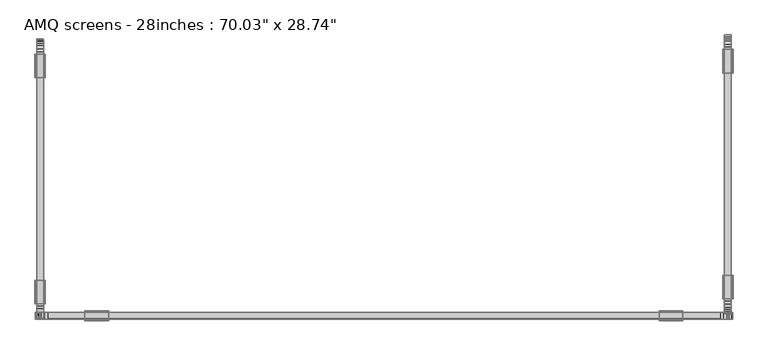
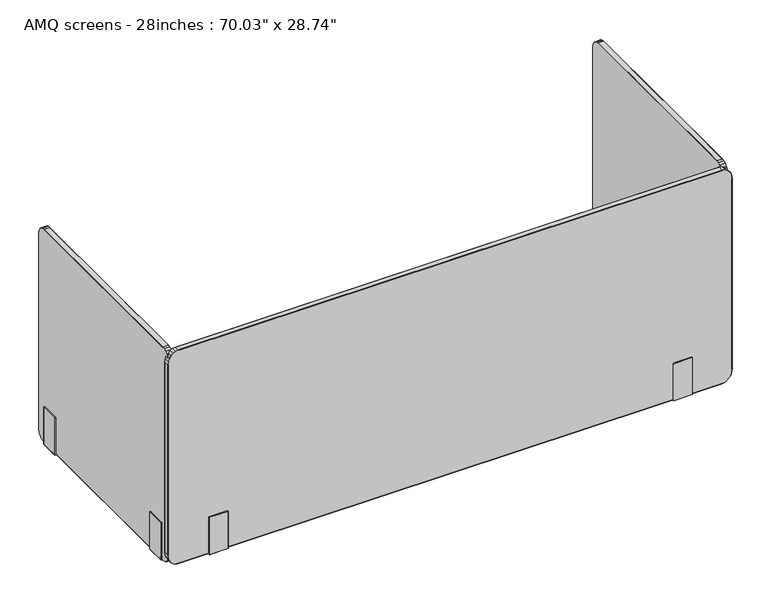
"""IFC4 building model written with IfcOpenShell, lengths in millimetres: furniture geometry."""

from ifc_helpers import new_model, si_unit, origin, place, context, project, spatial, triangles, source, transform, mapped, element, save


def furniture_cb9507ce(model_context):
    return source(origin(), model_context, "Body", "Tessellation", [
        triangles([(867.3004766, -314.4628913, 38.760016), (867.3004766, -314.4628913, 1.3049526), (867.3005493, 333.149505, 1.3044439), (867.3005493, 333.1495414, 38.7594347), (867.299968, -314.4625279, 673.4540239), (867.3005493, 333.1499047, 673.4532972), (884.2839603, -344.8169251, 683.966827), (868.3161123, -346.2567355, 673.5104158), (868.3161123, -344.8157261, 683.9604321), (884.2839603, -346.2567355, 673.5103432), (884.2839603, -341.5751535, 693.717322), (868.3161123, -341.5737001, 693.7046774), (884.2839603, -336.5061316, 701.5171366), (868.3161123, -336.5026797, 701.4945362), (868.3161123, -322.4581518, 710.7430269), (884.2839603, -322.4612403, 710.7901171), (868.3161123, -329.948792, 707.4603058), (884.2839603, -329.9522438, 707.493298), (884.2839603, -314.506784, 712.2133587), (868.3161123, -314.507111, 712.1517345), (867.299968, -340.7182654, 693.0616207), (867.299968, -343.84907, 683.5957741), (867.299968, -345.2408455, 673.4542419), (885.3001047, -322.1744119, 709.6081398), (885.3001047, -314.4625279, 673.4542419), (885.3001047, -329.4472601, 706.4331156), (885.3001047, -314.4605295, 710.9787683), (885.3001047, -345.2413178, 38.7598707), (884.2839603, -346.2570989, 38.7036968), (885.3001047, -345.2408455, 673.4542419), (867.3004766, -345.2413178, 38.7597935), (867.299968, -329.4441716, 706.3951818), (867.299968, -335.7956371, 700.6078171), (885.3001047, -343.8499057, 683.6030411), (885.3001047, -340.7198278, 693.0765181), (885.3001047, -335.7987256, 700.6339783), (867.299968, -314.4625279, 710.9091505), (867.299968, -322.1725224, 709.554364), (868.3161123, -346.2570989, 38.7036241), (885.3002501, 333.1499047, 673.4536606), (885.3002501, 333.1495414, 38.7592121), (885.3001047, -314.4628913, 38.7597935), (884.2839603, -344.8172885, 28.2472675), (868.3161123, -344.8160894, 28.2535897), (884.2839603, -341.5759892, 18.496634), (868.3161123, -341.5740635, 18.5094239), (884.2839603, -336.5064949, 10.696984), (868.3161123, -336.5030431, 10.7195106), (884.2839603, -322.4616036, 1.4240506), (868.3161123, -329.9491553, 4.7537816), (884.2839603, -329.9527162, 4.7206463), (868.3161123, -322.4585152, 1.471065), (884.2839603, -314.507111, 0.0006875), (868.3161123, -314.507111, 0.0623074), (884.2841057, 333.1936521, 0.0001061), (885.3001047, -314.4610019, 1.2353395), (885.3002501, 333.147543, 1.2347582), (867.3004766, -343.8494333, 28.6182954), (867.3004766, -340.7186288, 19.1524374), (885.3001047, -322.1747752, 2.6059479), (885.3001047, -329.4476234, 5.7809023), (867.3004766, -335.7961095, 11.6063875), (867.3004766, -329.444535, 5.8189064), (885.3001047, -340.7201912, 19.1373221), (885.3001047, -343.850269, 28.6108831), (885.3001047, -335.7992343, 11.5801548), (867.3004766, -322.1728858, 2.6595019), (868.3162577, 333.1944878, 712.1510078), (884.2841057, 333.1941244, 712.2127773), (867.3001133, 333.1499047, 710.9084238), (884.2841057, 363.5042293, 683.9661003), (868.3162577, 364.9441123, 673.5099072), (884.2841057, 364.9441123, 673.5096891), (868.3162577, 363.5031029, 683.9598507), (884.2841057, 360.2625667, 693.7167406), (868.3162577, 360.2610406, 693.7039507), (884.2841057, 355.1935083, 701.5164825), (868.3162577, 355.1900565, 701.4939548), (884.2841057, 348.6396569, 707.4928619), (884.2841057, 341.1486171, 710.7893904), (868.3162577, 348.6361324, 707.4597244), (868.3162577, 341.1455286, 710.7424456), (885.3002501, 333.1480153, 710.9780416), (867.3001133, 362.5364468, 683.5951927), (867.3001133, 363.9281859, 673.4536606), (867.3001133, 359.4056422, 693.0609667), (885.3002501, 340.8618613, 709.6074131), (885.3002501, 348.1346369, 706.4325342), (885.3002501, 363.9278589, 38.7592121), (884.2841057, 364.943749, 38.7031154), (885.3002501, 363.9281859, 673.4536606), (867.3005493, 363.9278589, 38.7592121), (867.3001133, 354.4831229, 700.6070904), (867.3001133, 348.1315484, 706.3944551), (885.3002501, 359.4072046, 693.076082), (885.3002501, 362.5372825, 683.6026051), (885.3002501, 354.4862114, 700.6332516), (867.3001133, 340.8598992, 709.553928), (868.3162577, 364.943749, 38.7030428), (884.2841057, 363.5038659, 28.2466134), (868.3162577, 363.5027395, 28.2529357), (884.2841057, 360.262167, 18.4960538), (868.3162577, 360.2606046, 18.5087699), (884.2841057, 355.193145, 10.69633), (868.3162577, 355.1896205, 10.7189292), (868.3162577, 348.6358054, 4.7532002), (868.3162577, 341.1451653, 1.4704836), (884.2841057, 341.1482537, 1.4233966), (884.2841057, 348.6392572, 4.7200653), (868.3162577, 333.1940881, 0.0617261), (867.3005493, 359.4052789, 19.1518561), (867.3005493, 362.5360834, 28.6177141), (885.3002501, 348.1342735, 5.7803936), (885.3002501, 340.8614253, 2.6054392), (867.3005493, 348.1311851, 5.8183971), (867.3005493, 354.4826506, 11.6058062), (885.3002501, 362.5369191, 28.6103017), (885.3002501, 359.4068413, 19.1367407), (885.3002501, 354.4858117, 11.5795746), (867.3005493, 340.8595359, 2.6589933), (-857.1782021, -343.0485374, 38.7595028), (-857.1782021, -343.0485374, 1.3045167), (857.2349573, -343.0488281, 1.3045167), (857.2349573, -343.0488281, 38.7595028), (-857.1782021, -343.0480651, 673.4536606), (857.2349573, -343.0483558, 673.4536606), (-887.5329626, -360.0319485, 683.9662457), (-888.9715376, -344.0641005, 673.5099798), (-887.5329626, -344.0641005, 683.959996), (-888.9715376, -360.0319485, 673.5099072), (-884.2897739, -360.0319485, 693.7170313), (-884.2897739, -344.0641005, 693.704096), (-879.2233681, -360.0319485, 701.5165552), (-879.2171185, -344.0641005, 701.4939548), (-865.1714642, -344.0639551, 710.7424456), (-865.1776411, -360.0318031, 710.7893904), (-872.6625767, -344.0641005, 707.4598698), (-872.6687536, -360.0319485, 707.4930073), (-857.221586, -360.0318031, 712.213068), (-857.221586, -344.0639551, 712.1512985), (-883.4337942, -343.0480651, 693.061112), (-886.5656525, -343.0480651, 683.5953381), (-887.9547392, -343.0480651, 673.4536606), (-864.8924841, -361.0478385, 709.6075584), (-857.1782021, -361.0479475, 673.4536606), (-872.1602091, -361.0479475, 706.4325342), (-857.1782021, -361.0478385, 710.9781143), (-887.9547392, -361.0479475, 673.4536606), (-887.9547392, -361.0483109, 38.7594347), (-888.9715376, -360.0324208, 38.7031881), (-887.9547392, -343.0484284, 38.7593575), (-872.1602091, -343.0480651, 706.3946005), (-878.5102575, -343.0480651, 700.6070904), (-886.5656525, -361.0479475, 683.6026051), (-883.4337942, -361.0479475, 693.076082), (-878.5164345, -361.0479475, 700.6333969), (-857.1782021, -343.0479561, 710.9087145), (-864.8863071, -343.0479561, 709.5540733), (-888.9715376, -344.0644275, 38.7031154), (857.2349573, -361.0482382, 673.4536606), (857.2349573, -361.0486015, 38.7593575), (-857.1782021, -361.0483109, 38.7594347), (-887.5329626, -360.0324208, 28.2468314), (-887.5329626, -344.0645728, 28.2530811), (-884.2897739, -360.0324208, 18.4961264), (-884.2897739, -344.0645728, 18.5089152), (-879.2233681, -360.0324208, 10.6964753), (-879.2171185, -344.0645728, 10.7190746), (-865.1776411, -360.0324208, 1.4235421), (-872.6625767, -344.0645728, 4.7532729), (-872.6687536, -360.0324208, 4.7201379), (-865.1714642, -344.0645728, 1.4705563), (-857.221586, -360.0324208, 0.0001788), (-857.221586, -344.0644275, 0.0618714), (857.2783413, -360.0327115, 0.0001788), (-857.1782021, -361.0484199, 1.2349034), (857.2349573, -361.0487105, 1.2349034), (-886.5656525, -343.0485374, 28.6177867), (-883.4337942, -343.0485374, 19.1520014), (-864.8924841, -361.0484199, 2.6055845), (-872.1602091, -361.0484199, 5.7805389), (-878.5102575, -343.0485374, 11.6059515), (-872.1602091, -343.0485374, 5.8183971), (-883.4337942, -361.0484199, 19.1368134), (-886.5656525, -361.0484199, 28.6104471), (-878.5164345, -361.0484199, 11.5797199), (-864.8863071, -343.0485374, 2.6589933), (857.2783413, -344.0642821, 712.1512985), (857.2783413, -360.0322392, 712.213068), (857.2349573, -343.0482468, 710.9087145), (887.5894272, -360.0322392, 683.9662457), (889.0285835, -344.0643911, 673.5099798), (889.0285835, -360.0322392, 673.5099072), (887.5894272, -344.0643911, 683.959996), (884.3464565, -360.0322392, 693.7170313), (884.3464565, -344.0643911, 693.704096), (879.2801233, -360.0322392, 701.5165552), (879.2738737, -344.0643911, 701.4939548), (872.7255089, -360.0322392, 707.4930073), (865.2343964, -360.0320938, 710.7893904), (872.7192593, -344.0643911, 707.4598698), (865.2281467, -344.0642821, 710.7424456), (857.2349573, -361.0481292, 710.9781143), (886.6224077, -343.0483558, 683.5953381), (888.0114218, -343.0483558, 673.4536606), (883.4905495, -343.0483558, 693.061112), (864.9492393, -361.0481292, 709.6075584), (872.2171824, -361.0482382, 706.4325342), (889.0285835, -360.0327115, 38.7031881), (888.0114218, -361.0486015, 38.7593575), (888.0114218, -361.0482382, 673.4536606), (888.0114218, -343.0487191, 38.7593575), (878.5667221, -343.0483558, 700.6070904), (872.2171824, -343.0483558, 706.3946005), (883.4905495, -361.0482382, 693.076082), (886.6224077, -361.0482382, 683.6026051), (878.5734077, -361.0482382, 700.6333969), (864.9430624, -343.0482468, 709.5540733), (889.0285835, -344.0647545, 38.7031154), (887.5894272, -360.0327115, 28.2468314), (887.5894272, -344.0648635, 28.2530811), (884.3464565, -360.0327115, 18.4961264), (884.3464565, -344.0648635, 18.5089152), (879.2801233, -360.0327115, 10.6964753), (879.2738737, -344.0648635, 10.7190746), (872.7192593, -344.0648635, 4.7532729), (865.2281467, -344.0648635, 1.4705563), (865.2343964, -360.0327115, 1.4235421), (872.7255089, -360.0327115, 4.7201379), (857.2783413, -344.0647545, 0.0618714), (883.4905495, -343.0488281, 19.1520014), (886.6224077, -343.0488281, 28.6177867), (872.2171824, -361.0487105, 5.7805389), (864.9492393, -361.0487105, 2.6055845), (872.2171824, -343.0488281, 5.8183971), (878.5667221, -343.0488281, 11.6059515), (886.6224077, -361.0487105, 28.6104471), (883.4905495, -361.0487105, 19.1368134), (878.5734077, -361.0487105, 11.5797199), (864.9430624, -343.0488281, 2.6589933), (-867.3004766, 321.5665638, 38.760016), (-867.3004766, 321.5665638, 1.3049526), (-867.3005493, -326.0457962, 1.3044439), (-867.3005493, -326.0458689, 38.7594347), (-867.299968, 321.5662368, 673.4540239), (-867.3005493, -326.0462322, 673.4532972), (-884.2839603, 351.9205976, 683.966827), (-868.3161123, 353.360408, 673.5104158), (-868.3161123, 351.9193986, 683.9604321), (-884.2839603, 353.360408, 673.5103432), (-884.2839603, 348.678826, 693.717322), (-868.3161123, 348.677409, 693.7046774), (-884.2839603, 343.6098041, 701.5171366), (-868.3161123, 343.6063522, 701.4945362), (-868.3161123, 329.5618243, 710.7430269), (-884.2839603, 329.5649128, 710.7901171), (-868.3161123, 337.0524645, 707.4603058), (-884.2839603, 337.0559163, 707.493298), (-884.2839603, 321.6104565, 712.2133587), (-868.3161123, 321.6108198, 712.1517345), (-867.299968, 347.8219379, 693.0616207), (-867.299968, 350.9527425, 683.5957741), (-867.299968, 352.344518, 673.4542419), (-885.3001047, 329.2781207, 709.6081398), (-885.3001047, 321.5662368, 673.4542419), (-885.3001047, 336.5509689, 706.4331156), (-885.3001047, 321.564202, 710.9787683), (-885.3001047, 352.3449903, 38.7598707), (-884.2839603, 353.3607714, 38.7036968), (-885.3001047, 352.344518, 673.4542419), (-867.3004766, 352.3449903, 38.7597935), (-867.299968, 336.5478441, 706.3951818), (-867.299968, 342.8993096, 700.6078171), (-885.3001047, 350.9535782, 683.6030411), (-885.3001047, 347.8235003, 693.0765181), (-885.3001047, 342.9024344, 700.6339783), (-867.299968, 321.5662368, 710.9091505), (-867.299968, 329.276195, 709.554364), (-868.3161123, 353.3607714, 38.7036241), (-885.3002501, -326.0462322, 673.4536606), (-885.3002501, -326.0458689, 38.7592121), (-885.3001047, 321.5665638, 38.7597935), (-884.2839603, 351.920961, 28.2472675), (-868.3161123, 351.9197619, 28.2535897), (-884.2839603, 348.6796618, 18.496634), (-868.3161123, 348.6777723, 18.5094239), (-884.2839603, 343.6101674, 10.696984), (-868.3161123, 343.6067156, 10.7195106), (-884.2839603, 329.5652761, 1.4240506), (-868.3161123, 337.0528278, 4.7537816), (-884.2839603, 337.0563887, 4.7206463), (-868.3161123, 329.5621877, 1.471065), (-884.2839603, 321.6108198, 0.0006875), (-868.3161123, 321.6108198, 0.0623074), (-884.2841057, -326.0899796, 0.0001061), (-885.3001047, 321.5646744, 1.2353395), (-885.3002501, -326.0438341, 1.2347582), (-867.3004766, 350.9531058, 28.6182954), (-867.3004766, 347.8223013, 19.1524374), (-885.3001047, 329.2784841, 2.6059479), (-885.3001047, 336.5512959, 5.7809023), (-867.3004766, 342.899782, 11.6063875), (-867.3004766, 336.5482075, 5.8189064), (-885.3001047, 347.8238637, 19.1373221), (-885.3001047, 350.9539415, 28.6108831), (-885.3001047, 342.9029068, 11.5801548), (-867.3004766, 329.2765583, 2.6595019), (-868.3162577, -326.0908153, 712.1510078), (-884.2841057, -326.0904519, 712.2127773), (-867.3001133, -326.0462322, 710.9084238), (-884.2841057, -356.4005568, 683.9661003), (-868.3162577, -357.8404035, 673.5099072), (-884.2841057, -357.8404035, 673.5096891), (-868.3162577, -356.3994304, 683.9598507), (-884.2841057, -353.1588942, 693.7167406), (-868.3162577, -353.1573318, 693.7039507), (-884.2841057, -348.0897995, 701.5164825), (-868.3162577, -348.0863477, 701.4939548), (-884.2841057, -341.5359844, 707.4928619), (-884.2841057, -334.0449446, 710.7893904), (-868.3162577, -341.5324599, 707.4597244), (-868.3162577, -334.0418198, 710.7424456), (-885.3002501, -326.0443065, 710.9780416), (-867.3001133, -355.4327379, 683.5951927), (-867.3001133, -356.8245134, 673.4536606), (-867.3001133, -352.3019697, 693.0609667), (-885.3002501, -333.7581888, 709.6074131), (-885.3002501, -341.0309644, 706.4325342), (-885.3002501, -356.8241501, 38.7592121), (-884.2841057, -357.8400764, 38.7031154), (-885.3002501, -356.8245134, 673.4536606), (-867.3005493, -356.8241501, 38.7592121), (-867.3001133, -347.3794504, 700.6070904), (-867.3001133, -341.0278396, 706.3944551), (-885.3002501, -352.3034958, 693.076082), (-885.3002501, -355.4335736, 683.6026051), (-885.3002501, -347.3825389, 700.6332516), (-867.3001133, -333.7561904, 709.553928), (-868.3162577, -357.8400764, 38.7030428), (-884.2841057, -356.4001934, 28.2466134), (-868.3162577, -356.399067, 28.2529357), (-884.2841057, -353.1584581, 18.4960538), (-868.3162577, -353.1569321, 18.5087699), (-884.2841057, -348.0894725, 10.69633), (-868.3162577, -348.085948, 10.7189292), (-868.3162577, -341.5320966, 4.7532002), (-868.3162577, -334.0414927, 1.4704836), (-884.2841057, -334.0445812, 1.4233966), (-884.2841057, -341.5355847, 4.7200653), (-868.3162577, -326.0903792, 0.0617261), (-867.3005493, -352.3016064, 19.1518561), (-867.3005493, -355.4323746, 28.6177141), (-885.3002501, -341.030601, 5.7803936), (-885.3002501, -333.7577528, 2.6054392), (-867.3005493, -341.0275126, 5.8183971), (-867.3005493, -347.3789781, 11.6058062), (-885.3002501, -355.4332103, 28.6103017), (-885.3002501, -352.3031324, 19.1367407), (-885.3002501, -347.3821392, 11.5795746), (-867.3005493, -333.7558634, 2.6589933)], [[1, 3, 2], [1, 4, 3], [5, 4, 1], [5, 6, 4], [7, 9, 8], [10, 7, 8], [11, 12, 9], [7, 11, 9], [13, 14, 12], [11, 13, 12], [15, 17, 16], [16, 17, 18], [19, 20, 15], [19, 15, 16], [17, 14, 18], [18, 14, 13], [21, 5, 22], [22, 5, 23], [24, 26, 25], [27, 24, 25], [28, 30, 29], [30, 10, 29], [23, 5, 31], [5, 1, 31], [32, 5, 33], [33, 5, 21], [34, 30, 25], [35, 34, 25], [36, 35, 25], [26, 36, 25], [37, 5, 38], [38, 5, 32], [39, 8, 23], [39, 23, 31], [25, 41, 40], [25, 42, 41], [43, 29, 39], [43, 39, 44], [45, 43, 44], [45, 44, 46], [45, 46, 47], [47, 46, 48], [49, 51, 50], [52, 49, 50], [53, 49, 52], [54, 53, 52], [55, 57, 56], [55, 56, 53], [51, 47, 48], [50, 51, 48], [1, 58, 31], [1, 59, 58], [42, 60, 56], [42, 61, 60], [1, 62, 59], [1, 63, 62], [42, 65, 64], [28, 65, 42], [42, 66, 61], [42, 64, 66], [1, 67, 63], [1, 2, 67], [29, 10, 8], [29, 8, 39], [25, 30, 42], [30, 28, 42], [68, 20, 19], [68, 19, 69], [37, 6, 5], [37, 70, 6], [42, 56, 41], [41, 56, 57], [71, 73, 72], [71, 72, 74], [75, 71, 74], [75, 74, 76], [75, 76, 77], [77, 76, 78], [79, 81, 80], [81, 82, 80], [80, 82, 69], [82, 68, 69], [83, 19, 27], [69, 19, 83], [77, 78, 79], [78, 81, 79], [84, 85, 6], [86, 84, 6], [83, 40, 87], [87, 40, 88], [89, 90, 73], [89, 73, 91], [6, 92, 4], [85, 92, 6], [93, 86, 6], [94, 93, 6], [95, 40, 96], [96, 40, 91], [88, 40, 97], [97, 40, 95], [98, 94, 6], [70, 98, 6], [99, 92, 85], [99, 85, 72], [100, 101, 99], [90, 100, 99], [102, 103, 101], [100, 102, 101], [104, 105, 103], [102, 104, 103], [106, 108, 107], [109, 108, 106], [107, 55, 110], [108, 55, 107], [105, 109, 106], [104, 109, 105], [4, 112, 111], [4, 92, 112], [41, 114, 113], [41, 57, 114], [4, 116, 115], [4, 111, 116], [41, 117, 89], [41, 118, 117], [41, 119, 118], [41, 113, 119], [4, 120, 3], [4, 115, 120], [90, 99, 72], [90, 72, 73], [91, 41, 89], [91, 40, 41], [68, 70, 37], [20, 68, 37], [27, 25, 83], [83, 25, 40], [55, 53, 54], [110, 55, 54], [2, 110, 54], [2, 3, 110], [121, 123, 122], [121, 124, 123], [125, 124, 121], [125, 126, 124], [127, 129, 128], [130, 127, 128], [131, 132, 129], [127, 131, 129], [133, 134, 132], [131, 133, 132], [135, 137, 136], [136, 137, 138], [139, 140, 135], [139, 135, 136], [137, 134, 138], [138, 134, 133], [141, 125, 142], [142, 125, 143], [144, 146, 145], [147, 144, 145], [148, 150, 149], [130, 150, 148], [143, 125, 151], [125, 121, 151], [152, 125, 153], [153, 125, 141], [154, 148, 145], [155, 154, 145], [156, 155, 145], [146, 156, 145], [157, 125, 158], [158, 125, 152], [128, 143, 159], [143, 151, 159], [160, 145, 161], [145, 162, 161], [163, 150, 159], [163, 159, 164], [165, 163, 164], [165, 164, 166], [165, 166, 167], [167, 166, 168], [169, 171, 170], [172, 169, 170], [173, 169, 172], [174, 173, 172], [175, 177, 176], [175, 176, 173], [171, 167, 168], [170, 171, 168], [121, 178, 151], [121, 179, 178], [162, 180, 176], [162, 181, 180], [121, 182, 179], [121, 183, 182], [162, 185, 184], [162, 149, 185], [162, 186, 181], [162, 184, 186], [121, 187, 183], [121, 122, 187], [150, 130, 128], [150, 128, 159], [145, 148, 162], [148, 149, 162], [188, 140, 139], [189, 188, 139], [157, 126, 125], [157, 190, 126], [162, 176, 161], [161, 176, 177], [191, 193, 192], [191, 192, 194], [191, 194, 195], [195, 194, 196], [197, 195, 196], [197, 196, 198], [199, 201, 200], [201, 202, 200], [200, 202, 189], [202, 188, 189], [203, 139, 147], [189, 139, 203], [197, 198, 199], [198, 201, 199], [204, 205, 126], [206, 204, 126], [203, 160, 207], [207, 160, 208], [193, 210, 209], [193, 211, 210], [126, 212, 124], [205, 212, 126], [213, 206, 126], [214, 213, 126], [215, 160, 216], [216, 160, 211], [208, 160, 217], [217, 160, 215], [218, 214, 126], [190, 218, 126], [205, 219, 212], [192, 219, 205], [220, 221, 219], [220, 219, 209], [222, 223, 221], [220, 222, 221], [224, 225, 223], [222, 224, 223], [226, 228, 227], [229, 228, 226], [227, 175, 230], [228, 175, 227], [225, 229, 226], [224, 229, 225], [124, 232, 231], [124, 212, 232], [161, 234, 233], [161, 177, 234], [124, 236, 235], [124, 231, 236], [210, 161, 237], [161, 238, 237], [161, 239, 238], [161, 233, 239], [124, 240, 123], [124, 235, 240], [209, 219, 192], [209, 192, 193], [211, 161, 210], [211, 160, 161], [188, 190, 157], [140, 188, 157], [203, 147, 145], [203, 145, 160], [175, 173, 174], [230, 175, 174], [122, 230, 174], [122, 123, 230], [241, 243, 242], [241, 244, 243], [245, 244, 241], [245, 246, 244], [247, 249, 248], [250, 247, 248], [251, 252, 249], [247, 251, 249], [253, 254, 252], [251, 253, 252], [255, 257, 256], [256, 257, 258], [259, 260, 255], [259, 255, 256], [257, 254, 258], [258, 254, 253], [261, 245, 262], [262, 245, 263], [264, 266, 265], [267, 264, 265], [268, 270, 269], [270, 250, 269], [263, 245, 271], [245, 241, 271], [272, 245, 273], [273, 245, 261], [274, 270, 265], [275, 274, 265], [276, 275, 265], [266, 276, 265], [277, 245, 278], [278, 245, 272], [279, 248, 263], [279, 263, 271], [265, 281, 280], [265, 282, 281], [283, 269, 279], [283, 279, 284], [285, 283, 284], [285, 284, 286], [285, 286, 287], [287, 286, 288], [289, 291, 290], [292, 289, 290], [293, 289, 292], [294, 293, 292], [295, 297, 296], [295, 296, 293], [291, 287, 288], [290, 291, 288], [241, 298, 271], [241, 299, 298], [282, 300, 296], [282, 301, 300], [241, 302, 299], [241, 303, 302], [282, 305, 304], [268, 305, 282], [282, 306, 301], [282, 304, 306], [241, 307, 303], [241, 242, 307], [269, 250, 248], [269, 248, 279], [265, 270, 282], [270, 268, 282], [308, 260, 259], [308, 259, 309], [277, 246, 245], [277, 310, 246], [282, 296, 281], [281, 296, 297], [311, 313, 312], [311, 312, 314], [315, 311, 314], [315, 314, 316], [315, 316, 317], [317, 316, 318], [319, 321, 320], [321, 322, 320], [320, 322, 309], [322, 308, 309], [323, 259, 267], [309, 259, 323], [317, 318, 319], [318, 321, 319], [324, 325, 246], [326, 324, 246], [323, 280, 327], [327, 280, 328], [329, 330, 313], [329, 313, 331], [246, 332, 244], [325, 332, 246], [333, 326, 246], [334, 333, 246], [335, 280, 336], [336, 280, 331], [328, 280, 337], [337, 280, 335], [338, 334, 246], [310, 338, 246], [339, 332, 325], [339, 325, 312], [340, 341, 339], [330, 340, 339], [342, 343, 341], [340, 342, 341], [344, 345, 343], [342, 344, 343], [346, 348, 347], [349, 348, 346], [347, 295, 350], [348, 295, 347], [345, 349, 346], [344, 349, 345], [244, 352, 351], [244, 332, 352], [281, 354, 353], [281, 297, 354], [244, 356, 355], [244, 351, 356], [281, 357, 329], [281, 358, 357], [281, 359, 358], [281, 353, 359], [244, 360, 243], [244, 355, 360], [330, 339, 312], [330, 312, 313], [331, 281, 329], [331, 280, 281], [308, 310, 277], [260, 308, 277], [267, 265, 323], [323, 265, 280], [295, 293, 294], [350, 295, 294], [242, 350, 294], [242, 243, 350]], closed=False),
        triangles([(889.4058134, 327.999347, 123.6855554), (889.4058134, 267.9994665, 123.6855554), (885.4056215, 327.999347, 123.6855554), (885.4056215, 267.9994665, 123.6855554), (885.4056215, 327.999347, 24.3661544), (885.4056215, 267.9994665, 24.3661544), (867.4054848, 327.999347, 24.3661544), (867.4054848, 267.9994665, 24.3661544), (867.4062841, -248.4793643, 24.3660818), (863.4060923, -248.4793643, 24.3660818), (867.4062841, -248.4793643, 0.0002515), (863.4060923, -248.4793643, 0.0002515), (867.4062841, -248.4793643, 123.6854827), (863.4060923, -248.4793643, 123.6854827), (889.4061768, -248.4793643, 24.3660818), (885.4064209, -248.4793643, 0.0002515), (889.4061768, -248.4793643, 0.0002515), (885.4064209, -248.4793643, 24.3660818), (885.4064209, -248.4793643, 123.6854827), (889.4061768, -248.4793643, 123.6854827), (867.4062841, -308.4791722, 0.0002515), (863.4060923, -308.4791722, 24.3660818), (867.4062841, -308.4791722, 24.3660818), (863.4060923, -308.4791722, 0.0002515), (867.4062841, -308.4791722, 123.6855554), (863.4060923, -308.4791722, 123.6855554), (889.4061768, -308.4791722, 0.0002515), (885.4064209, -308.4791722, 0.0002515), (889.4061768, -308.4791722, 24.3660818), (885.4064209, -308.4791722, 24.3660818), (885.4064209, -308.4791722, 123.6855554), (889.4061768, -308.4791722, 123.6855554), (863.4052929, 327.999347, 24.3661544), (867.4054848, 327.999347, 0.0002515), (863.4052929, 327.999347, 0.0002515), (867.4054848, 327.999347, 123.6855554), (863.4052929, 327.999347, 123.6855554), (889.4058134, 327.999347, 24.3661544), (885.4056215, 327.999347, 0.0002515), (889.4058134, 327.999347, 0.0002515), (867.4054848, 267.9994665, 0.0002515), (863.4052929, 267.9994665, 24.3661544), (863.4052929, 267.9994665, 0.0002515), (867.4054848, 267.9994665, 123.6855554), (863.4052929, 267.9994665, 123.6855554), (889.4058134, 267.9994665, 0.0002515), (885.4056215, 267.9994665, 0.0002515), (889.4058134, 267.9994665, 24.3661544), (-701.7910297, -338.9435918, 123.6857007), (-761.7907831, -338.9435918, 123.6857007), (-701.7910297, -342.9437837, 123.6856281), (-761.7907831, -342.9437837, 123.6856281), (-701.7910297, -342.942839, 24.3662271), (-761.7907831, -342.942839, 24.3662271), (-701.7910297, -360.9428304, 24.3659364), (-761.7907831, -360.9428304, 24.3659364), (701.3101725, -364.9436399, 24.3660818), (701.3101725, -360.9434481, 0.0002515), (701.3101725, -360.9434481, 24.3660818), (701.3101725, -364.9436399, 0.0002515), (701.3101725, -360.9434481, 123.6854827), (701.3101725, -364.9436399, 123.6854827), (701.3101725, -342.9434203, 0.0002515), (701.3101725, -338.9432284, 0.0002515), (701.3101725, -338.9432284, 24.3660818), (701.3101725, -342.9434203, 24.3660818), (701.3101725, -342.9434203, 123.6854827), (701.3101725, -338.9432284, 123.6854827), (761.3100712, -364.9436399, 24.3660818), (761.3100712, -360.9434481, 24.3660818), (761.3100712, -360.9434481, 0.0002515), (761.3100712, -364.9436399, 0.0002515), (761.3100712, -364.9436399, 123.6855554), (761.3100712, -360.9434481, 123.6855554), (761.3100712, -342.9434203, 0.0002515), (761.3100712, -338.9432284, 24.3660818), (761.3100712, -338.9432284, 0.0002515), (761.3100712, -342.9434203, 24.3660818), (761.3100712, -342.9434203, 123.6855554), (761.3100712, -338.9432284, 123.6855554), (-701.7910297, -364.9430223, 24.3659364), (-701.7910297, -360.9426124, 0.0001061), (-701.7910297, -364.9428042, 3.35e-05), (-701.7910297, -364.943967, 123.6853374), (-701.7910297, -360.9438114, 123.6853374), (-701.7910297, -342.9425846, 0.0003241), (-701.7910297, -338.9423927, 0.0003968), (-701.7910297, -338.9426471, 24.3662271), (-761.7907831, -364.9430223, 24.3659364), (-761.7907831, -360.9426124, 0.0001061), (-761.7907831, -364.9428042, 3.35e-05), (-761.7907831, -364.943967, 123.6853374), (-761.7907831, -360.9438114, 123.6853374), (-761.7907831, -342.9425846, 0.0003241), (-761.7907831, -338.9426471, 24.3662271), (-761.7907831, -338.9423927, 0.0003968), (-889.4058134, -320.8956745, 123.6855554), (-889.4058134, -260.895794, 123.6855554), (-885.4056215, -320.8956745, 123.6855554), (-885.4056215, -260.895794, 123.6855554), (-885.4056215, -320.8956745, 24.3661544), (-885.4056215, -260.895794, 24.3661544), (-867.4054848, -320.8956745, 24.3661544), (-867.4054848, -260.895794, 24.3661544), (-867.4062841, 255.583055, 24.3660818), (-863.4060923, 255.583055, 24.3660818), (-867.4062841, 255.583055, 0.0002515), (-863.4060923, 255.583055, 0.0002515), (-867.4062841, 255.583055, 123.6854827), (-863.4060923, 255.583055, 123.6854827), (-889.4061768, 255.583055, 24.3660818), (-885.4064209, 255.583055, 0.0002515), (-889.4061768, 255.583055, 0.0002515), (-885.4064209, 255.583055, 24.3660818), (-885.4064209, 255.583055, 123.6854827), (-889.4061768, 255.583055, 123.6854827), (-867.4062841, 315.5828811, 0.0002515), (-863.4060923, 315.5828811, 24.3660818), (-867.4062841, 315.5828811, 24.3660818), (-863.4060923, 315.5828811, 0.0002515), (-867.4062841, 315.5828811, 123.6855554), (-863.4060923, 315.5828811, 123.6855554), (-889.4061768, 315.5828811, 0.0002515), (-885.4064209, 315.5828811, 0.0002515), (-889.4061768, 315.5828811, 24.3660818), (-885.4064209, 315.5828811, 24.3660818), (-885.4064209, 315.5828811, 123.6855554), (-889.4061768, 315.5828811, 123.6855554), (-863.4052929, -320.8956745, 24.3661544), (-867.4054848, -320.8956745, 0.0002515), (-863.4052929, -320.8956745, 0.0002515), (-867.4054848, -320.8956745, 123.6855554), (-863.4052929, -320.8956745, 123.6855554), (-889.4058134, -320.8956745, 24.3661544), (-885.4056215, -320.8956745, 0.0002515), (-889.4058134, -320.8956745, 0.0002515), (-867.4054848, -260.895794, 0.0002515), (-863.4052929, -260.895794, 24.3661544), (-863.4052929, -260.895794, 0.0002515), (-867.4054848, -260.895794, 123.6855554), (-863.4052929, -260.895794, 123.6855554), (-889.4058134, -260.895794, 0.0002515), (-885.4056215, -260.895794, 0.0002515), (-889.4058134, -260.895794, 24.3661544)], [[1, 3, 2], [3, 4, 2], [5, 7, 6], [7, 8, 6], [9, 11, 10], [11, 12, 10], [13, 10, 14], [13, 9, 10], [15, 17, 16], [15, 16, 18], [15, 18, 19], [20, 15, 19], [16, 11, 9], [18, 16, 9], [21, 23, 22], [21, 22, 24], [25, 26, 22], [23, 25, 22], [27, 29, 28], [29, 30, 28], [29, 31, 30], [29, 32, 31], [28, 23, 21], [28, 30, 23], [22, 10, 12], [22, 12, 24], [12, 11, 24], [11, 21, 24], [13, 14, 25], [14, 26, 25], [26, 14, 10], [26, 10, 22], [13, 23, 9], [25, 23, 13], [16, 17, 28], [17, 27, 28], [15, 27, 17], [29, 27, 15], [31, 19, 18], [31, 18, 30], [20, 29, 15], [32, 29, 20], [20, 19, 32], [19, 31, 32], [18, 9, 30], [9, 23, 30], [7, 34, 33], [34, 35, 33], [36, 33, 37], [36, 7, 33], [38, 40, 39], [38, 39, 5], [38, 5, 3], [1, 38, 3], [39, 34, 7], [5, 39, 7], [41, 8, 42], [41, 42, 43], [44, 45, 42], [8, 44, 42], [46, 48, 47], [48, 6, 47], [48, 4, 6], [48, 2, 4], [47, 8, 41], [47, 6, 8], [42, 33, 35], [42, 35, 43], [35, 34, 43], [34, 41, 43], [36, 37, 44], [37, 45, 44], [45, 37, 33], [45, 33, 42], [36, 8, 7], [44, 8, 36], [39, 40, 47], [40, 46, 47], [38, 46, 40], [48, 46, 38], [4, 3, 5], [4, 5, 6], [1, 48, 38], [2, 48, 1], [49, 51, 50], [51, 52, 50], [53, 55, 54], [55, 56, 54], [57, 59, 58], [60, 57, 58], [57, 62, 61], [57, 61, 59], [63, 65, 64], [63, 66, 65], [66, 67, 65], [67, 68, 65], [58, 59, 63], [59, 66, 63], [69, 71, 70], [69, 72, 71], [73, 69, 74], [69, 70, 74], [75, 77, 76], [78, 75, 76], [79, 78, 76], [79, 76, 80], [70, 71, 75], [70, 75, 78], [69, 57, 60], [69, 60, 72], [72, 60, 58], [71, 72, 58], [74, 61, 62], [73, 74, 62], [73, 62, 57], [73, 57, 69], [61, 70, 59], [74, 70, 61], [75, 63, 64], [77, 75, 64], [65, 77, 64], [76, 77, 65], [79, 67, 66], [79, 66, 78], [68, 76, 65], [80, 76, 68], [80, 68, 67], [79, 80, 67], [78, 66, 59], [70, 78, 59], [81, 55, 82], [81, 82, 83], [84, 85, 81], [81, 85, 55], [86, 88, 87], [53, 88, 86], [51, 88, 53], [51, 49, 88], [55, 86, 82], [55, 53, 86], [89, 90, 56], [89, 91, 90], [92, 89, 93], [89, 56, 93], [94, 96, 95], [54, 94, 95], [52, 54, 95], [52, 95, 50], [56, 90, 94], [56, 94, 54], [89, 81, 83], [89, 83, 91], [83, 82, 91], [82, 90, 91], [85, 84, 93], [84, 92, 93], [92, 84, 81], [92, 81, 89], [85, 56, 55], [85, 93, 56], [86, 87, 94], [87, 96, 94], [88, 96, 87], [95, 96, 88], [52, 51, 53], [52, 53, 54], [49, 95, 88], [50, 95, 49], [97, 99, 98], [99, 100, 98], [101, 103, 102], [103, 104, 102], [105, 107, 106], [107, 108, 106], [109, 106, 110], [109, 105, 106], [111, 113, 112], [111, 112, 114], [111, 114, 115], [116, 111, 115], [112, 107, 105], [114, 112, 105], [117, 119, 118], [117, 118, 120], [121, 122, 118], [119, 121, 118], [123, 125, 124], [125, 126, 124], [125, 127, 126], [125, 128, 127], [124, 119, 117], [124, 126, 119], [118, 106, 108], [118, 108, 120], [108, 107, 120], [107, 117, 120], [109, 110, 121], [110, 122, 121], [122, 110, 106], [122, 106, 118], [109, 119, 105], [121, 119, 109], [112, 113, 124], [113, 123, 124], [111, 123, 113], [125, 123, 111], [127, 115, 114], [127, 114, 126], [116, 125, 111], [128, 125, 116], [116, 115, 128], [115, 127, 128], [114, 105, 126], [105, 119, 126], [103, 130, 129], [130, 131, 129], [132, 129, 133], [132, 103, 129], [134, 136, 135], [134, 135, 101], [134, 101, 99], [97, 134, 99], [135, 130, 103], [101, 135, 103], [137, 104, 138], [137, 138, 139], [140, 141, 138], [104, 140, 138], [142, 144, 143], [144, 102, 143], [144, 100, 102], [144, 98, 100], [143, 104, 137], [143, 102, 104], [138, 129, 131], [138, 131, 139], [131, 130, 139], [130, 137, 139], [132, 133, 140], [133, 141, 140], [141, 133, 129], [141, 129, 138], [132, 104, 103], [140, 104, 132], [135, 136, 143], [136, 142, 143], [134, 142, 136], [144, 142, 134], [100, 99, 101], [100, 101, 102], [97, 144, 134], [98, 144, 97]], closed=False),
    ])


if __name__ == "__main__":
    model = new_model("IFC4")
    model_context = context("Model", 3, world=origin())
    ifc_project = project(units=[si_unit("LENGTHUNIT", "METRE", prefix="MILLI")], contexts=[model_context])
    site = spatial("IfcSite", under=ifc_project)
    building = spatial("IfcBuilding", under=site)
    placement = place(None, origin())
    furniture_shape = furniture_cb9507ce(model_context)
    element("IfcFurniture", 1, ObjectType="AMQ screens - 28inches : 70.03\" x 28.74\"", at=placement, inside=building, context=model_context, shape_type="MappedRepresentation", body=[
        mapped(furniture_shape, transform((0.0, 0.0, 0.0), x_axis=(1.0, 0.0, 0.0), y_axis=(0.0, 1.0, 0.0), z_axis=(0.0, 0.0, 1.0))),
    ])
    save(model, "model.ifc")
